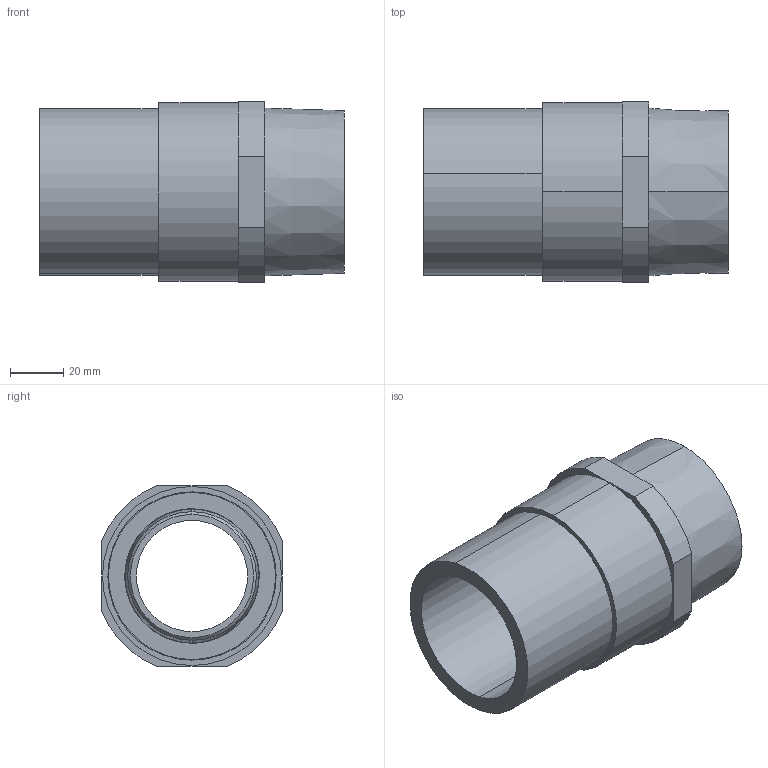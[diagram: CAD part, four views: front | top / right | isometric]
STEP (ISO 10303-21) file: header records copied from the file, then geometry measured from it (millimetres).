
FILE_DESCRIPTION (( 'STEP AP214' ), '1' );
FILE_NAME ('KP_C17-63M.step', '2012-09-03T10:40:42', ( 'robinj' ), ( 'Microsoft' ), 'SwSTEP 2.0', 'SolidWorks 2012', '' );
FILE_SCHEMA (( 'AUTOMOTIVE_DESIGN' ));
Length unit declared in the file: millimetre
Products named in the file (1): KP_C17-63M
Bounding box: 115 x 68 x 68 mm (x, y, z)
Volume: 171013.8 mm3; surface area: 69622.4 mm2
Topology: 3 solids, 3 shells, 52 faces, 110 edges, 68 vertices
Faces by surface type: cylinder 22, plane 14, cone 10, torus 6
Entity records: 2048 total; most frequent: DIRECTION 282, CARTESIAN_POINT 231, ORIENTED_EDGE 220, AXIS2_PLACEMENT_3D 119, EDGE_CURVE 110, VERTEX_POINT 68, CIRCLE 66, EDGE_LOOP 62
